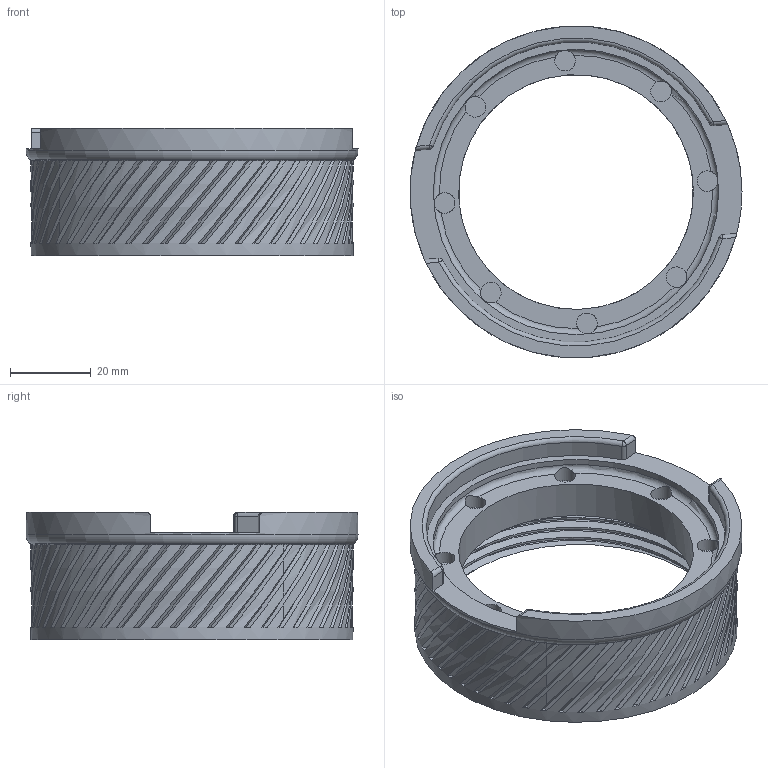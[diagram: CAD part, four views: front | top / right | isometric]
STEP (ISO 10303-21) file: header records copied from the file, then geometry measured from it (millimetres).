
FILE_DESCRIPTION(/* description */ ('STEP AP242','CAx-IF Rec.Pracs.---Representation and Presentation of Product Manufacturing Information (PMI)---4.0---2014-10-13','CAx-IF Rec.Pracs.---3D Tessellated Geometry---0.4---2014-09-14','2;1'),/* implementation_level */ '2;1');
FILE_NAME(/* name */ '6469234ecac4670533c200f8',/* time_stamp */ '2023-05-20T19:45:18Z',/* author */ (''),/* organization */ (''),/* preprocessor_version */ 'ST-DEVELOPER v19.4',/* originating_system */ ' ',/* authorisation */ ' ');
FILE_SCHEMA (('AP242_MANAGED_MODEL_BASED_3D_ENGINEERING_MIM_LF { 1 0 10303 442 1 1 4 }'));
Length unit declared in the file: metre
Products named in the file (1): Base 21mm Magnet Lug
Bounding box: 82 x 82 x 31.4 mm (x, y, z)
Volume: 43390.1 mm3; surface area: 21281 mm2
Topology: 1 solids, 1 shells, 311 faces, 802 edges, 492 vertices
Faces by surface type: plane 142, bspline 130, cylinder 27, torus 4, cone 4, sphere 4
Full cylindrical faces by diameter (mm): 5.1 x8, 58 x1, 70.5 x1, 79.6 x1, 82 x1
Entity records: 15690 total; most frequent: CARTESIAN_POINT 9854, ORIENTED_EDGE 1510, DIRECTION 861, EDGE_CURVE 755, VERTEX_POINT 469, AXIS2_PLACEMENT_3D 401, EDGE_LOOP 328, FACE_BOUND 328
